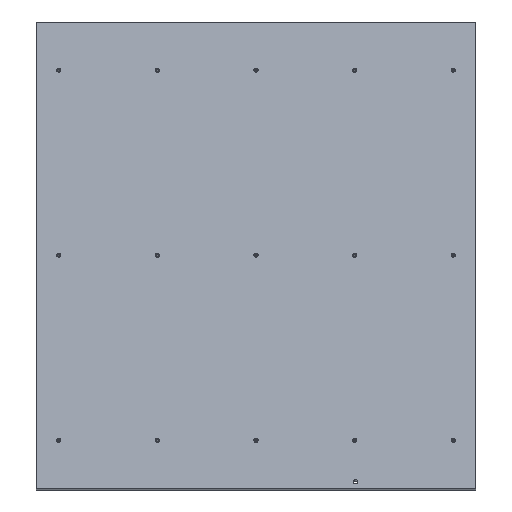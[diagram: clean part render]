
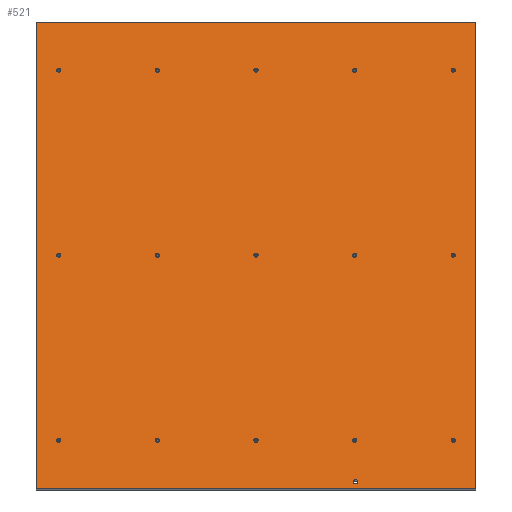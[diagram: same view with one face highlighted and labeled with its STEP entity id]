
A CAD part, front view. The second image highlights one B-rep face of the part: STEP entity #521.
In plain terms, the highlighted planar face has unit normal (0, -0.985, 0.174).
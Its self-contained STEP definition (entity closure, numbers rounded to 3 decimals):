
#37=CARTESIAN_POINT('',(2420.,-5.209,296.706));
#38=VERTEX_POINT('',#37);
#45=CARTESIAN_POINT('',(1250.25,-5.209,296.706));
#46=VERTEX_POINT('',#45);
#47=CARTESIAN_POINT('',(1250.25,-5.209,296.706));
#48=DIRECTION('',(1.0,0.0,0.0));
#49=VECTOR('',#48,1.);
#50=LINE('',#47,#49);
#51=EDGE_CURVE('',#46,#38,#50,.T.);
#75=CARTESIAN_POINT('',(2420.,213.587,1537.564));
#76=VERTEX_POINT('',#75);
#83=CARTESIAN_POINT('',(2420.0,-5.209,296.706));
#84=DIRECTION('',(0.,0.174,0.985));
#85=VECTOR('',#84,1.);
#86=LINE('',#83,#85);
#87=EDGE_CURVE('',#38,#76,#86,.T.);
#106=CARTESIAN_POINT('',(1250.25,213.587,1537.564));
#107=VERTEX_POINT('',#106);
#114=CARTESIAN_POINT('',(2420.0,213.587,1537.564));
#115=DIRECTION('',(-1.0,0.,0.));
#116=VECTOR('',#115,1.);
#117=LINE('',#114,#116);
#118=EDGE_CURVE('',#76,#107,#117,.T.);
#136=CARTESIAN_POINT('',(1250.25,213.587,1537.564));
#137=DIRECTION('',(0.,-0.174,-0.985));
#138=VECTOR('',#137,1.);
#139=LINE('',#136,#138);
#140=EDGE_CURVE('',#107,#46,#139,.T.);
#334=CARTESIAN_POINT('',(1250.25,-5.209,296.706));
#335=DIRECTION('',(0.0,-0.985,0.174));
#336=DIRECTION('',(1.0,0.0,0.0));
#337=AXIS2_PLACEMENT_3D('',#334,#335,#336);
#338=PLANE('',#337);
#339=ORIENTED_EDGE('',*,*,#51,.T.);
#340=ORIENTED_EDGE('',*,*,#87,.T.);
#341=ORIENTED_EDGE('',*,*,#118,.T.);
#342=ORIENTED_EDGE('',*,*,#140,.T.);
#343=EDGE_LOOP('',(#339,#340,#341,#342));
#344=FACE_OUTER_BOUND('',#343,.T.);
#345=CARTESIAN_POINT('',(2106.,-2.084,314.432));
#346=VERTEX_POINT('',#345);
#347=CARTESIAN_POINT('',(2100.,-2.084,314.432));
#348=DIRECTION('',(0.0,-0.985,0.174));
#349=DIRECTION('',(1.0,0.0,0.0));
#350=AXIS2_PLACEMENT_3D('',#347,#348,#349);
#351=CIRCLE('',#350,6.0);
#352=EDGE_CURVE('',#346,#346,#351,.T.);
#353=ORIENTED_EDGE('',*,*,#352,.F.);
#354=EDGE_LOOP('',(#353));
#355=FACE_BOUND('',#354,.T.);
#356=CARTESIAN_POINT('',(1315.75,17.365,424.731));
#357=VERTEX_POINT('',#356);
#358=CARTESIAN_POINT('',(1310.25,17.365,424.731));
#359=DIRECTION('',(0.0,-0.985,0.174));
#360=DIRECTION('',(1.0,0.0,0.0));
#361=AXIS2_PLACEMENT_3D('',#358,#359,#360);
#362=CIRCLE('',#361,5.5);
#363=EDGE_CURVE('',#357,#357,#362,.T.);
#364=ORIENTED_EDGE('',*,*,#363,.F.);
#365=EDGE_LOOP('',(#364));
#366=FACE_BOUND('',#365,.T.);
#367=CARTESIAN_POINT('',(1315.75,104.189,917.135));
#368=VERTEX_POINT('',#367);
#369=CARTESIAN_POINT('',(1310.25,104.189,917.135));
#370=DIRECTION('',(0.0,-0.985,0.174));
#371=DIRECTION('',(1.0,0.0,0.0));
#372=AXIS2_PLACEMENT_3D('',#369,#370,#371);
#373=CIRCLE('',#372,5.5);
#374=EDGE_CURVE('',#368,#368,#373,.T.);
#375=ORIENTED_EDGE('',*,*,#374,.F.);
#376=EDGE_LOOP('',(#375));
#377=FACE_BOUND('',#376,.T.);
#378=CARTESIAN_POINT('',(1315.75,191.013,1409.539));
#379=VERTEX_POINT('',#378);
#380=CARTESIAN_POINT('',(1310.25,191.013,1409.539));
#381=DIRECTION('',(0.0,-0.985,0.174));
#382=DIRECTION('',(1.0,0.0,0.0));
#383=AXIS2_PLACEMENT_3D('',#380,#381,#382);
#384=CIRCLE('',#383,5.5);
#385=EDGE_CURVE('',#379,#379,#384,.T.);
#386=ORIENTED_EDGE('',*,*,#385,.F.);
#387=EDGE_LOOP('',(#386));
#388=FACE_BOUND('',#387,.T.);
#389=CARTESIAN_POINT('',(1578.187,17.365,424.731));
#390=VERTEX_POINT('',#389);
#391=CARTESIAN_POINT('',(1572.687,17.365,424.731));
#392=DIRECTION('',(0.0,-0.985,0.174));
#393=DIRECTION('',(1.0,0.0,0.0));
#394=AXIS2_PLACEMENT_3D('',#391,#392,#393);
#395=CIRCLE('',#394,5.5);
#396=EDGE_CURVE('',#390,#390,#395,.T.);
#397=ORIENTED_EDGE('',*,*,#396,.F.);
#398=EDGE_LOOP('',(#397));
#399=FACE_BOUND('',#398,.T.);
#400=CARTESIAN_POINT('',(1578.187,104.189,917.135));
#401=VERTEX_POINT('',#400);
#402=CARTESIAN_POINT('',(1572.687,104.189,917.135));
#403=DIRECTION('',(0.0,-0.985,0.174));
#404=DIRECTION('',(1.0,0.0,0.0));
#405=AXIS2_PLACEMENT_3D('',#402,#403,#404);
#406=CIRCLE('',#405,5.5);
#407=EDGE_CURVE('',#401,#401,#406,.T.);
#408=ORIENTED_EDGE('',*,*,#407,.F.);
#409=EDGE_LOOP('',(#408));
#410=FACE_BOUND('',#409,.T.);
#411=CARTESIAN_POINT('',(1578.187,191.013,1409.539));
#412=VERTEX_POINT('',#411);
#413=CARTESIAN_POINT('',(1572.687,191.013,1409.539));
#414=DIRECTION('',(0.0,-0.985,0.174));
#415=DIRECTION('',(1.0,0.0,0.0));
#416=AXIS2_PLACEMENT_3D('',#413,#414,#415);
#417=CIRCLE('',#416,5.5);
#418=EDGE_CURVE('',#412,#412,#417,.T.);
#419=ORIENTED_EDGE('',*,*,#418,.F.);
#420=EDGE_LOOP('',(#419));
#421=FACE_BOUND('',#420,.T.);
#422=CARTESIAN_POINT('',(1840.625,17.365,424.731));
#423=VERTEX_POINT('',#422);
#424=CARTESIAN_POINT('',(1835.125,17.365,424.731));
#425=DIRECTION('',(0.0,-0.985,0.174));
#426=DIRECTION('',(1.0,0.0,0.0));
#427=AXIS2_PLACEMENT_3D('',#424,#425,#426);
#428=CIRCLE('',#427,5.5);
#429=EDGE_CURVE('',#423,#423,#428,.T.);
#430=ORIENTED_EDGE('',*,*,#429,.F.);
#431=EDGE_LOOP('',(#430));
#432=FACE_BOUND('',#431,.T.);
#433=CARTESIAN_POINT('',(1840.625,104.189,917.135));
#434=VERTEX_POINT('',#433);
#435=CARTESIAN_POINT('',(1835.125,104.189,917.135));
#436=DIRECTION('',(0.0,-0.985,0.174));
#437=DIRECTION('',(1.0,0.0,0.0));
#438=AXIS2_PLACEMENT_3D('',#435,#436,#437);
#439=CIRCLE('',#438,5.5);
#440=EDGE_CURVE('',#434,#434,#439,.T.);
#441=ORIENTED_EDGE('',*,*,#440,.F.);
#442=EDGE_LOOP('',(#441));
#443=FACE_BOUND('',#442,.T.);
#444=CARTESIAN_POINT('',(1840.625,191.013,1409.539));
#445=VERTEX_POINT('',#444);
#446=CARTESIAN_POINT('',(1835.125,191.013,1409.539));
#447=DIRECTION('',(0.0,-0.985,0.174));
#448=DIRECTION('',(1.0,0.0,0.0));
#449=AXIS2_PLACEMENT_3D('',#446,#447,#448);
#450=CIRCLE('',#449,5.5);
#451=EDGE_CURVE('',#445,#445,#450,.T.);
#452=ORIENTED_EDGE('',*,*,#451,.F.);
#453=EDGE_LOOP('',(#452));
#454=FACE_BOUND('',#453,.T.);
#455=CARTESIAN_POINT('',(2103.062,17.365,424.731));
#456=VERTEX_POINT('',#455);
#457=CARTESIAN_POINT('',(2097.562,17.365,424.731));
#458=DIRECTION('',(0.0,-0.985,0.174));
#459=DIRECTION('',(1.0,0.0,0.0));
#460=AXIS2_PLACEMENT_3D('',#457,#458,#459);
#461=CIRCLE('',#460,5.5);
#462=EDGE_CURVE('',#456,#456,#461,.T.);
#463=ORIENTED_EDGE('',*,*,#462,.F.);
#464=EDGE_LOOP('',(#463));
#465=FACE_BOUND('',#464,.T.);
#466=CARTESIAN_POINT('',(2103.062,104.189,917.135));
#467=VERTEX_POINT('',#466);
#468=CARTESIAN_POINT('',(2097.562,104.189,917.135));
#469=DIRECTION('',(0.0,-0.985,0.174));
#470=DIRECTION('',(1.0,0.0,0.0));
#471=AXIS2_PLACEMENT_3D('',#468,#469,#470);
#472=CIRCLE('',#471,5.5);
#473=EDGE_CURVE('',#467,#467,#472,.T.);
#474=ORIENTED_EDGE('',*,*,#473,.F.);
#475=EDGE_LOOP('',(#474));
#476=FACE_BOUND('',#475,.T.);
#477=CARTESIAN_POINT('',(2103.062,191.013,1409.539));
#478=VERTEX_POINT('',#477);
#479=CARTESIAN_POINT('',(2097.562,191.013,1409.539));
#480=DIRECTION('',(0.0,-0.985,0.174));
#481=DIRECTION('',(1.0,0.0,0.0));
#482=AXIS2_PLACEMENT_3D('',#479,#480,#481);
#483=CIRCLE('',#482,5.5);
#484=EDGE_CURVE('',#478,#478,#483,.T.);
#485=ORIENTED_EDGE('',*,*,#484,.F.);
#486=EDGE_LOOP('',(#485));
#487=FACE_BOUND('',#486,.T.);
#488=CARTESIAN_POINT('',(2365.5,17.365,424.731));
#489=VERTEX_POINT('',#488);
#490=CARTESIAN_POINT('',(2360.,17.365,424.731));
#491=DIRECTION('',(0.0,-0.985,0.174));
#492=DIRECTION('',(1.0,0.0,0.0));
#493=AXIS2_PLACEMENT_3D('',#490,#491,#492);
#494=CIRCLE('',#493,5.5);
#495=EDGE_CURVE('',#489,#489,#494,.T.);
#496=ORIENTED_EDGE('',*,*,#495,.F.);
#497=EDGE_LOOP('',(#496));
#498=FACE_BOUND('',#497,.T.);
#499=CARTESIAN_POINT('',(2365.5,104.189,917.135));
#500=VERTEX_POINT('',#499);
#501=CARTESIAN_POINT('',(2360.,104.189,917.135));
#502=DIRECTION('',(0.0,-0.985,0.174));
#503=DIRECTION('',(1.0,0.0,0.0));
#504=AXIS2_PLACEMENT_3D('',#501,#502,#503);
#505=CIRCLE('',#504,5.5);
#506=EDGE_CURVE('',#500,#500,#505,.T.);
#507=ORIENTED_EDGE('',*,*,#506,.F.);
#508=EDGE_LOOP('',(#507));
#509=FACE_BOUND('',#508,.T.);
#510=CARTESIAN_POINT('',(2365.5,191.013,1409.539));
#511=VERTEX_POINT('',#510);
#512=CARTESIAN_POINT('',(2360.,191.013,1409.539));
#513=DIRECTION('',(0.0,-0.985,0.174));
#514=DIRECTION('',(1.0,0.0,0.0));
#515=AXIS2_PLACEMENT_3D('',#512,#513,#514);
#516=CIRCLE('',#515,5.5);
#517=EDGE_CURVE('',#511,#511,#516,.T.);
#518=ORIENTED_EDGE('',*,*,#517,.F.);
#519=EDGE_LOOP('',(#518));
#520=FACE_BOUND('',#519,.T.);
#521=ADVANCED_FACE('',(#344,#355,#366,#377,#388,#399,#410,#421,#432,#443,#454,#465,#476,#487,#498,#509,#520),#338,.T.);
